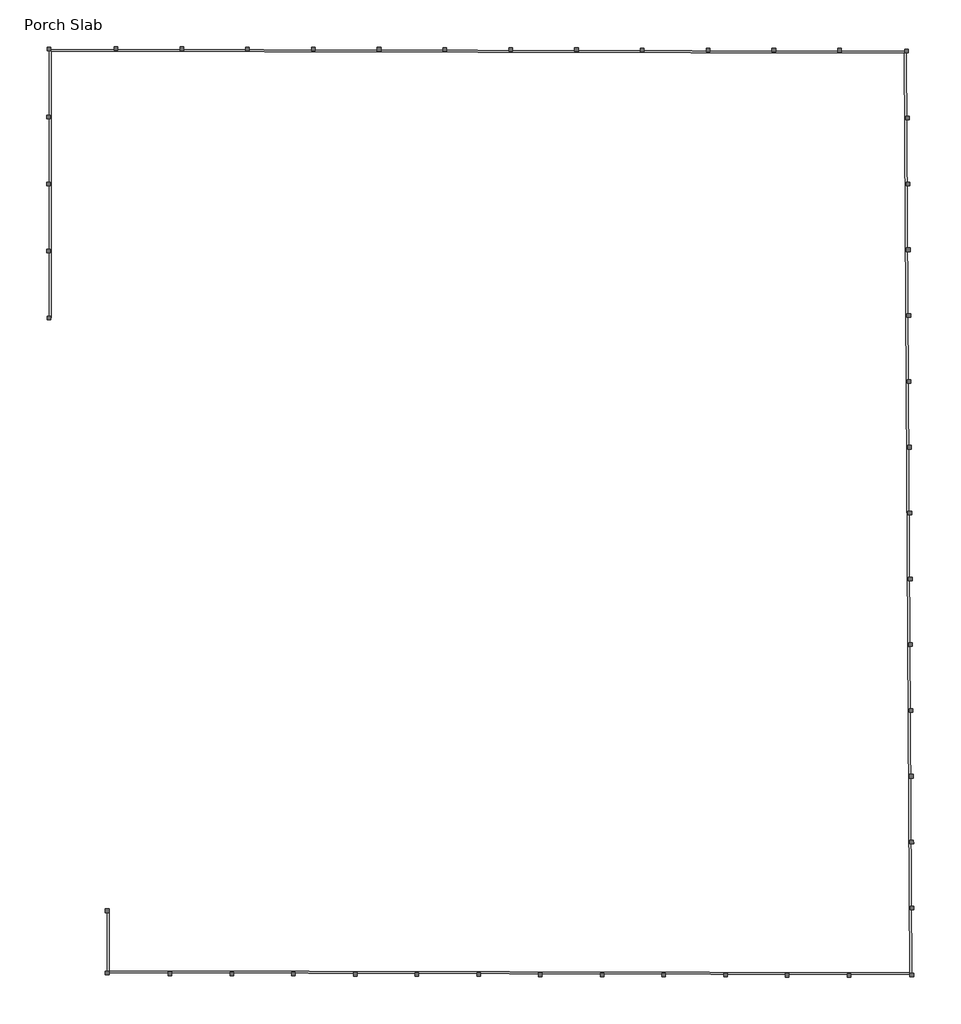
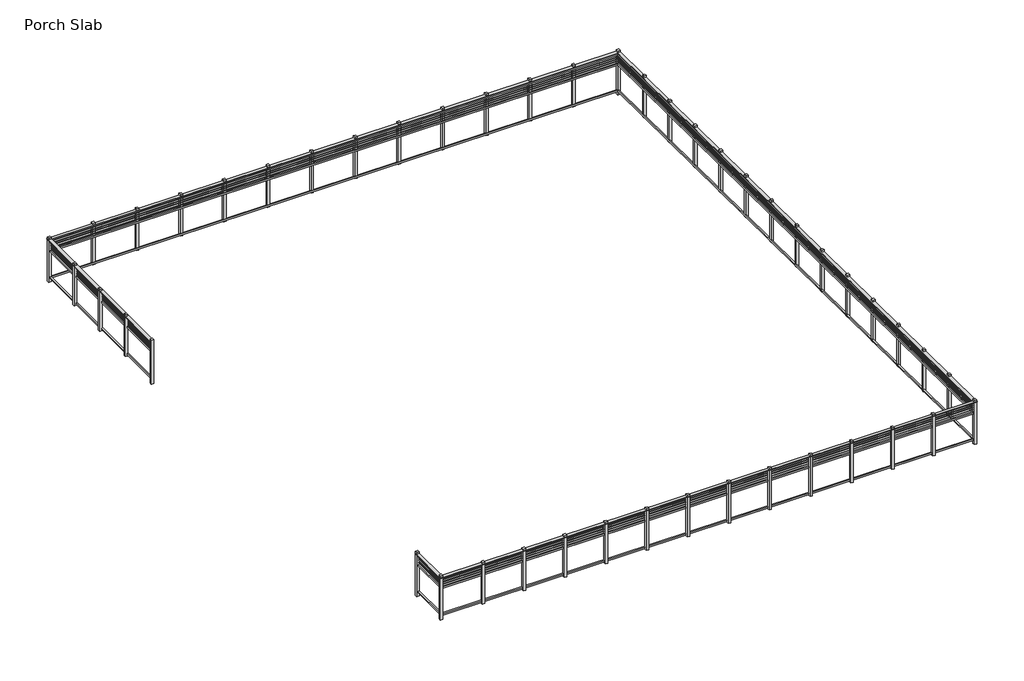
# One storey, incomplete: 1 railing.
"""IFC4 building model written with IfcOpenShell, lengths in millimetres."""

from ifc_helpers import new_model, si_unit, origin, place, context, project, spatial, transform, mapped, element, save
from components import railing_a39a6ae4

model = new_model("IFC4")

# Units and contexts
model_context = context("Model", 3, world=origin())
ifc_project = project(units=[si_unit("LENGTHUNIT", "METRE", prefix="MILLI")], contexts=[model_context])

# Site, building, storey
site = spatial("IfcSite", under=ifc_project)
building = spatial("IfcBuilding", under=site)
storey = spatial("IfcBuildingStorey", under=building, Name="Porch Slab", Elevation=-151.7904)

# Railing
placement = place(None, origin())
railing_shape = railing_a39a6ae4(model_context)
element("IfcRailing", 1, ObjectType="Dolan Fence - Frame", at=placement, inside=storey, context=model_context, shape_type="MappedRepresentation", body=[
    mapped(railing_shape, transform((0.0, 0.0, 0.0), x_axis=(1.0, 0.0, 0.0), y_axis=(0.0, 1.0, 0.0), z_axis=(0.0, 0.0, 1.0))),
])

save(model, "model.ifc")
